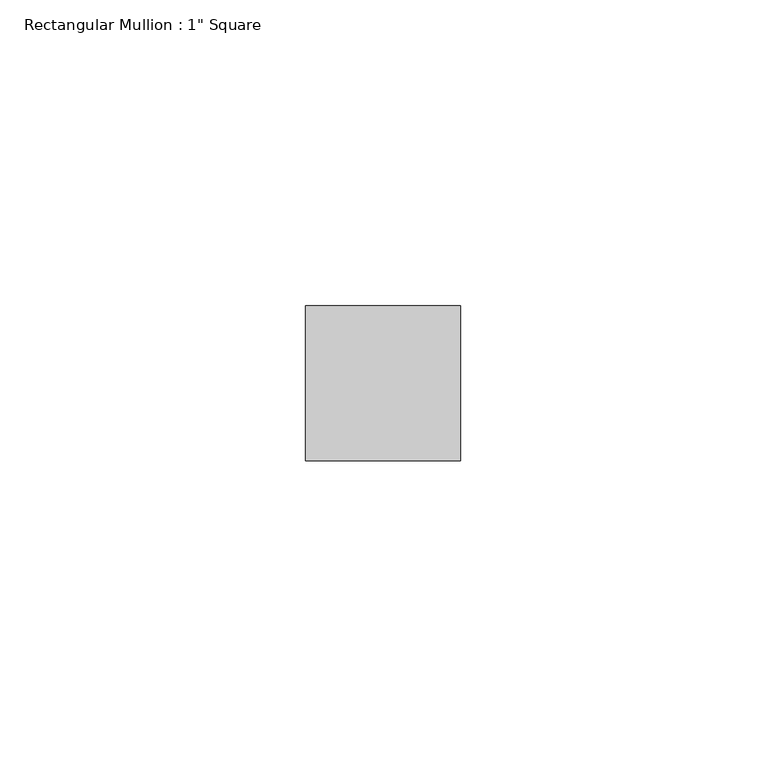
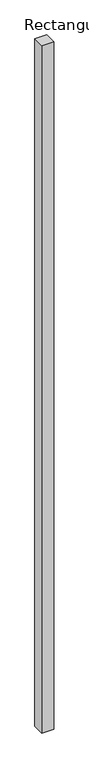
"""IFC4 building model written with IfcOpenShell, lengths in millimetres: member geometry."""

from ifc_helpers import new_model, si_unit, frame, origin, place, context, project, spatial, polyline, outline, extrude, source, transform, mapped, element, save


def member_602ccce8(model_context):
    return source(origin(), model_context, "Body", "SweptSolid", [
        extrude(outline(polyline([(12.7, 12.7), (12.7, -12.7), (-12.7, -12.7), (-12.7, 12.7), (12.7, 12.7)])), frame((0.0, 0.0, -1557.8326249), z_axis=(0.0, 0.0, 1.0), x_axis=(1.0, 0.0, 0.0)), (0.0, 0.0, 1.0), 1557.8326249),
    ])


if __name__ == "__main__":
    model = new_model("IFC4")
    model_context = context("Model", 3, world=origin())
    ifc_project = project(units=[si_unit("LENGTHUNIT", "METRE", prefix="MILLI")], contexts=[model_context])
    site = spatial("IfcSite", under=ifc_project)
    building = spatial("IfcBuilding", under=site)
    placement = place(None, origin())
    member_shape = member_602ccce8(model_context)
    element("IfcMember", 1, ObjectType="Rectangular Mullion : 1\" Square", at=placement, inside=building, context=model_context, shape_type="MappedRepresentation", body=[
        mapped(member_shape, transform((0.0, 0.0, 0.0), x_axis=(1.0, 0.0, 0.0), y_axis=(0.0, 1.0, 0.0), z_axis=(0.0, 0.0, 1.0))),
    ])
    save(model, "model.ifc")
